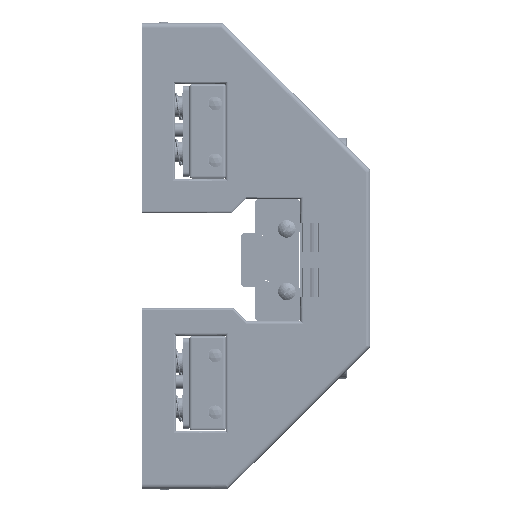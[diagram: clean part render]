
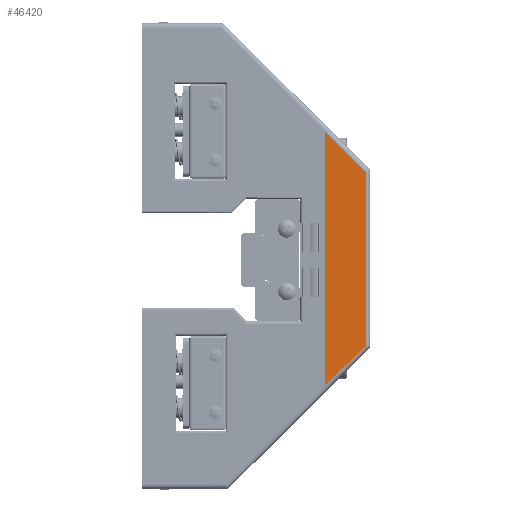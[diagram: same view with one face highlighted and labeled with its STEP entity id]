
A CAD part, left-side view. The second image highlights one B-rep face of the part: STEP entity #46420.
In plain terms, the highlighted planar face has unit normal (-1, 0, 0).
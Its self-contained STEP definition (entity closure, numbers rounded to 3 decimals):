
#2543=PLANE('',#51162);
#5458=FACE_OUTER_BOUND('',#8307,.T.);
#8307=EDGE_LOOP('',(#40964,#40965,#40966,#40967));
#14295=LINE('',#251687,#17624);
#14320=LINE('',#251760,#17649);
#14321=LINE('',#251763,#17650);
#14322=LINE('',#251764,#17651);
#17624=VECTOR('',#61656,10.);
#17649=VECTOR('',#61721,10.);
#17650=VECTOR('',#61724,10.);
#17651=VECTOR('',#61725,10.);
#22014=VERTEX_POINT('',#251678);
#22017=VERTEX_POINT('',#251685);
#22045=VERTEX_POINT('',#251758);
#22046=VERTEX_POINT('',#251762);
#28438=EDGE_CURVE('',#22017,#22014,#14295,.T.);
#28475=EDGE_CURVE('',#22045,#22017,#14320,.T.);
#28476=EDGE_CURVE('',#22046,#22045,#14321,.F.);
#28477=EDGE_CURVE('',#22014,#22046,#14322,.T.);
#40964=ORIENTED_EDGE('',*,*,#28438,.F.);
#40965=ORIENTED_EDGE('',*,*,#28475,.F.);
#40966=ORIENTED_EDGE('',*,*,#28476,.F.);
#40967=ORIENTED_EDGE('',*,*,#28477,.F.);
#46420=ADVANCED_FACE('',(#5458),#2543,.T.);
#51162=AXIS2_PLACEMENT_3D('',#251761,#61722,#61723);
#61656=DIRECTION('',(0.,0.,-1.));
#61721=DIRECTION('',(0.,-0.708,-0.706));
#61722=DIRECTION('center_axis',(-1.,0.,0.));
#61723=DIRECTION('ref_axis',(0.,0.,-1.));
#61724=DIRECTION('',(0.,0.,-1.));
#61725=DIRECTION('',(0.,0.709,-0.706));
#251678=CARTESIAN_POINT('',(9.074,-6.876,30.757));
#251685=CARTESIAN_POINT('',(9.074,-6.876,69.088));
#251687=CARTESIAN_POINT('',(9.074,-6.876,64.728));
#251758=CARTESIAN_POINT('',(9.074,2.124,78.064));
#251760=CARTESIAN_POINT('',(9.074,2.826,78.764));
#251761=CARTESIAN_POINT('Origin',(9.074,2.124,79.459));
#251762=CARTESIAN_POINT('',(9.074,2.124,21.795));
#251763=CARTESIAN_POINT('',(9.074,2.124,64.728));
#251764=CARTESIAN_POINT('',(9.074,-16.974,40.813));
